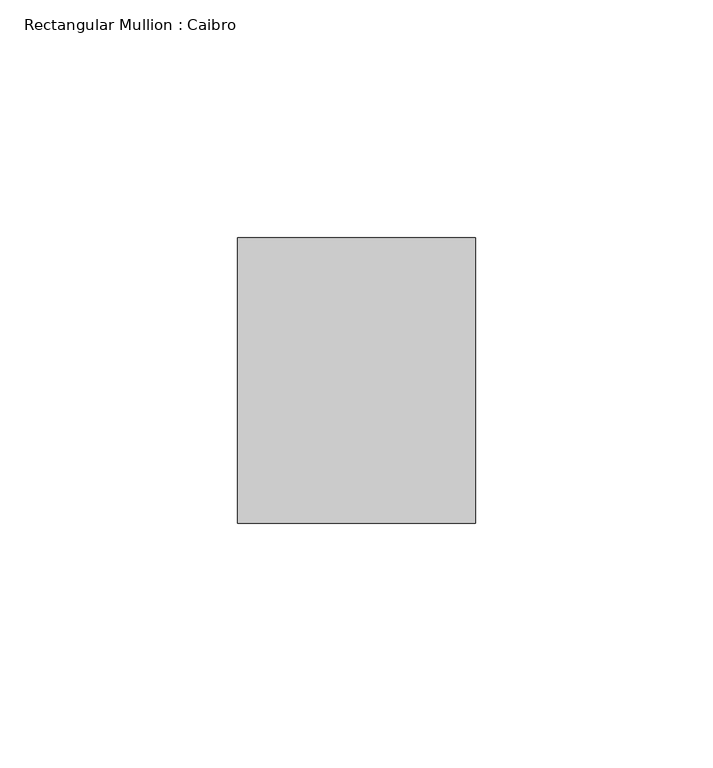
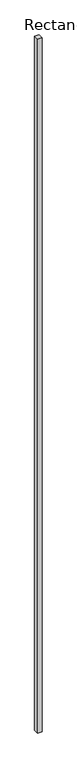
"""IFC4 building model written with IfcOpenShell, lengths in millimetres: member geometry, Rectangular Mullion : Caibro."""

from ifc_helpers import new_model, si_unit, frame, origin, place, context, project, spatial, polyline, outline, extrude, source, transform, mapped, element, save


def rectangular_mullion_caibro_3e452d7c(model_context):
    return source(origin(), model_context, "Body", "SweptSolid", [
        extrude(outline(polyline([(-25.0, -60.0), (-25.0, 0.0), (25.0, 0.0), (25.0, -60.0), (-25.0, -60.0)])), frame((0.0, 0.0, -8494.3429448), z_axis=(0.0, 0.0, 1.0), x_axis=(1.0, 0.0, 0.0)), (0.0, 0.0, 1.0), 8494.3429448),
    ])


if __name__ == "__main__":
    model = new_model("IFC4")
    model_context = context("Model", 3, world=origin())
    ifc_project = project(units=[si_unit("LENGTHUNIT", "METRE", prefix="MILLI")], contexts=[model_context])
    site = spatial("IfcSite", under=ifc_project)
    building = spatial("IfcBuilding", under=site)
    placement = place(None, origin())
    rectangular_mullion_caibro_shape = rectangular_mullion_caibro_3e452d7c(model_context)
    element("IfcMember", 1, ObjectType="Rectangular Mullion : Caibro", at=placement, inside=building, context=model_context, shape_type="MappedRepresentation", body=[
        mapped(rectangular_mullion_caibro_shape, transform((0.0, 0.0, 0.0), x_axis=(1.0, 0.0, 0.0), y_axis=(0.0, 1.0, 0.0), z_axis=(0.0, 0.0, 1.0))),
    ])
    save(model, "model.ifc")
